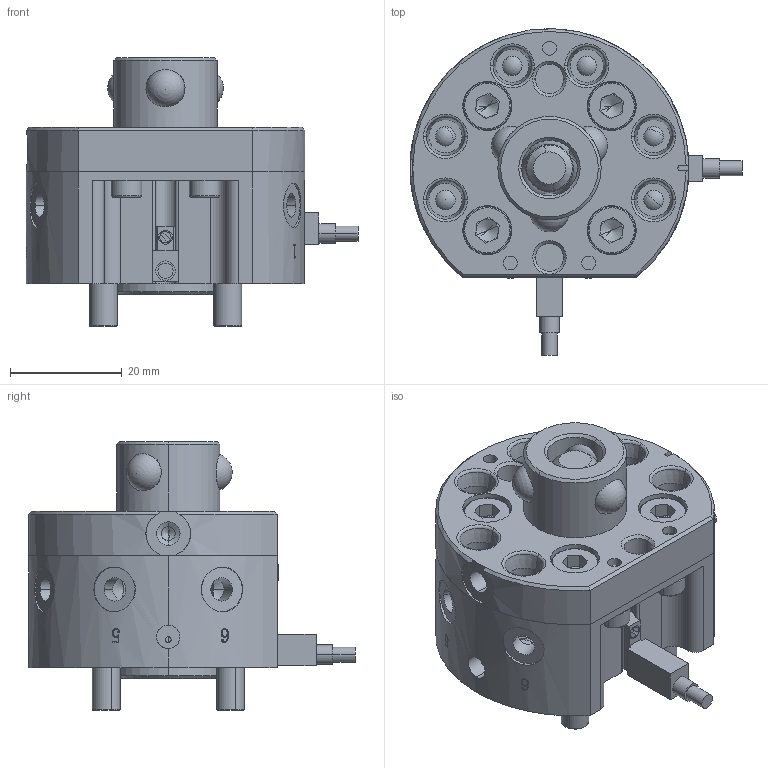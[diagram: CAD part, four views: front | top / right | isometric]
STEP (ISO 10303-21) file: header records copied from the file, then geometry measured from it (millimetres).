
FILE_DESCRIPTION (( 'STEP AP214' ), '1' );
FILE_NAME ('QCA-05G1»úÐµ²à×°Åä.STEP', '2023-12-12T05:35:02', ( '' ), ( '' ), 'SwSTEP 2.0', 'SolidWorks 2018', '' );
FILE_SCHEMA (( 'AUTOMOTIVE_DESIGN' ));
Length unit declared in the file: millimetre
Products named in the file (16): o-rings series a gb_GB-T 3452.1 10x1.8-A; QCA-05G1儂迮耜蚾饜; QCA-15詩⑩; QCA-05R1棠遠; 精密O型圈内径22.5线径1.0; hexagon socket head cap screws gb_GB_FASTENER_SCREWS_HSHCS M3X8-N; hexagon socket head cap screws gb_GB_FASTENER_SCREWS_HSHCS M3X20-N; 4.5MM钢球; QCSM-05粣裝; 粟銅3.8; QCSM-05R菁釱坶踡啣; hexagon socket head cap screws gb_GB_FASTENER_SCREWS_HSHCS M5X30-N; o-rings series a gb_GB-T 3452.1 4x1.8-A; MGJ_D-F8B; 精密O型圈内径17线径1.78; QCSM-05R菁釱
Assembly tree (37 placements, depth 2):
  QCA-05G1儂迮耜蚾饜
    QCSM-05R菁釱
    QCSM-05R菁釱坶踡啣
    QCSM-05粣裝
    o-rings series a gb_GB-T 3452.1 10x1.8-A
    QCA-15詩⑩  x3
    4.5MM钢球  x6
    hexagon socket head cap screws gb_GB_FASTENER_SCREWS_HSHCS M3X8-N  x2
    hexagon socket head cap screws gb_GB_FASTENER_SCREWS_HSHCS M3X20-N
    hexagon socket head cap screws gb_GB_FASTENER_SCREWS_HSHCS M5X30-N  x4
    MGJ_D-F8B  x2
    o-rings series a gb_GB-T 3452.1 4x1.8-A  x6
    粟銅3.8  x6
    精密O型圈内径17线径1.78
    QCA-05R1棠遠
    精密O型圈内径22.5线径1.0
Bounding box: 59.5 x 58.5 x 48.2 mm (x, y, z)
Volume: 46491.4 mm3; surface area: 30450.6 mm2
Topology: 37 solids, 37 shells, 899 faces, 2132 edges, 1326 vertices
Faces by surface type: plane 289, cylinder 264, bspline 133, cone 99, torus 96, sphere 18
Entity records: 33601 total; most frequent: CARTESIAN_POINT 16986, DIRECTION 3190, ORIENTED_EDGE 3166, EDGE_CURVE 1583, AXIS2_PLACEMENT_3D 1328, VERTEX_POINT 1001, EDGE_LOOP 788, CIRCLE 708
